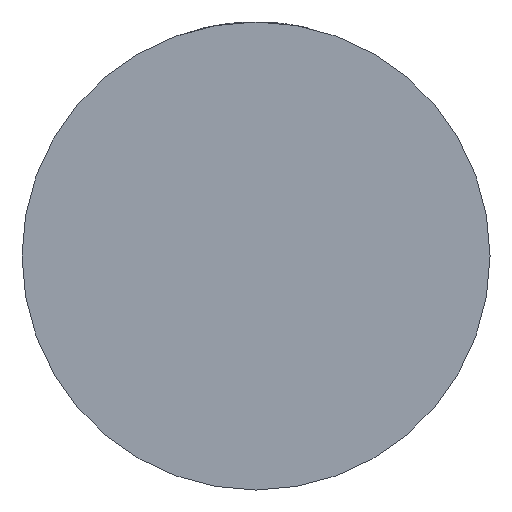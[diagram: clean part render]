
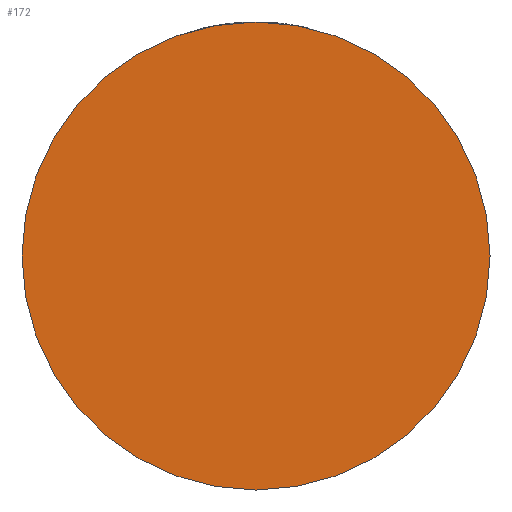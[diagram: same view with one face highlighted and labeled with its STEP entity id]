
A CAD part, front view. The second image highlights one B-rep face of the part: STEP entity #172.
In plain terms, the highlighted planar face has unit normal (0, -1, 0).
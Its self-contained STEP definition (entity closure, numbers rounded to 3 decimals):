
#172 = ADVANCED_FACE ( 'NONE', ( #2395 ), #1322, .T. ) ;
#652 = DIRECTION ( 'NONE',  ( 1., 0., 0. ) ) ;
#867 = VERTEX_POINT ( 'NONE', #1054 ) ;
#1043 = AXIS2_PLACEMENT_3D ( 'NONE', #1701, #2083, #652 ) ;
#1054 = CARTESIAN_POINT ( 'NONE',  ( -40., -28., 0. ) ) ;
#1245 = CIRCLE ( 'NONE', #4034, 40. ) ;
#1322 = PLANE ( 'NONE',  #1043 ) ;
#1585 = EDGE_CURVE ( 'NONE', #2505, #867, #2941, .T. ) ;
#1701 = CARTESIAN_POINT ( 'NONE',  ( 0., -28., 0. ) ) ;
#1940 = ORIENTED_EDGE ( 'NONE', *, *, #1585, .T. ) ;
#1962 = EDGE_LOOP ( 'NONE', ( #2784, #1940 ) ) ;
#2083 = DIRECTION ( 'NONE',  ( 0., -1., 0. ) ) ;
#2099 = CARTESIAN_POINT ( 'NONE',  ( 0., -28., 0. ) ) ;
#2395 = FACE_OUTER_BOUND ( 'NONE', #1962, .T. ) ;
#2505 = VERTEX_POINT ( 'NONE', #4242 ) ;
#2784 = ORIENTED_EDGE ( 'NONE', *, *, #4405, .T. ) ;
#2941 = CIRCLE ( 'NONE', #3521, 40. ) ;
#2968 = DIRECTION ( 'NONE',  ( 1., 0., 0. ) ) ;
#3469 = DIRECTION ( 'NONE',  ( 1., 0., 0. ) ) ;
#3521 = AXIS2_PLACEMENT_3D ( 'NONE', #2099, #4168, #3469 ) ;
#3935 = DIRECTION ( 'NONE',  ( 0., -1., 0. ) ) ;
#3958 = CARTESIAN_POINT ( 'NONE',  ( 0., -28., 0. ) ) ;
#4034 = AXIS2_PLACEMENT_3D ( 'NONE', #3958, #3935, #2968 ) ;
#4168 = DIRECTION ( 'NONE',  ( 0., -1., 0. ) ) ;
#4242 = CARTESIAN_POINT ( 'NONE',  ( 40., -28., 0. ) ) ;
#4405 = EDGE_CURVE ( 'NONE', #867, #2505, #1245, .T. ) ;
